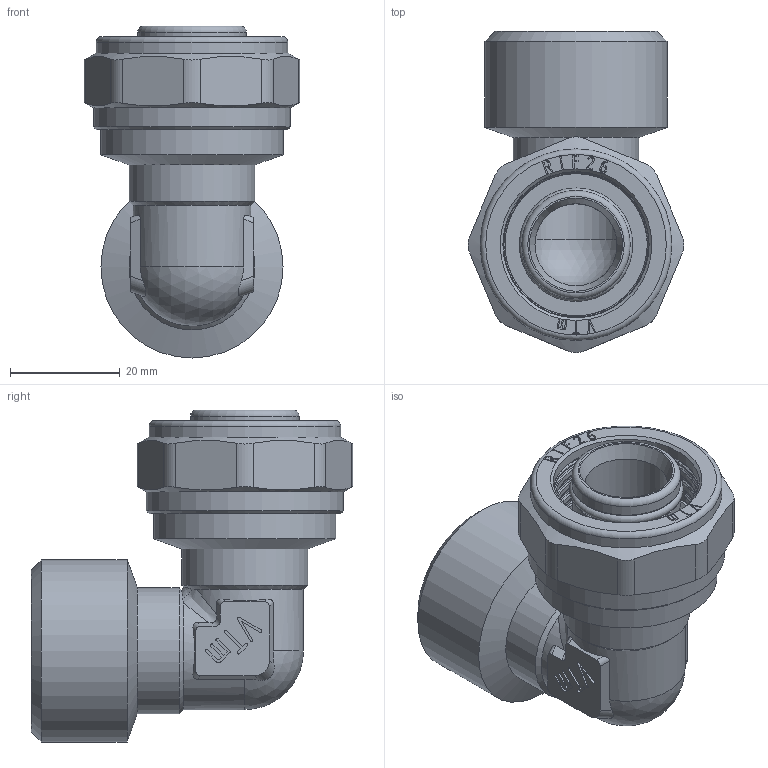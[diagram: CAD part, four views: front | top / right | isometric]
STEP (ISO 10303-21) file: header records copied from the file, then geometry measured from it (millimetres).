
FILE_DESCRIPTION(('STEP AP203'), '1');
FILE_NAME('VTm.353.N.002606', '', ('UNSPECIFIED'), ('UNSPECIFIED'), 'C3D Converter', 'C3D Toolkit', '');
FILE_SCHEMA(('CONFIG_CONTROL_DESIGN'));
Length unit declared in the file: millimetre
Products named in the file (1): ВР.302635.112.000 СБ
Bounding box: 39.39 x 58.69 x 60.62 mm (x, y, z)
Volume: 28800 mm3; surface area: 19678.6 mm2
Topology: 1 solids, 1 shells, 464 faces, 1275 edges, 839 vertices
Faces by surface type: extrusion 201, plane 156, cylinder 54, torus 29, cone 19, bspline 3, sphere 2
Full cylindrical faces by diameter (mm): 15 x1, 17 x1, 17.4 x4, 19.8 x5, 20 x1, 23 x2, 25 x1, 26.2 x1, 26.7 x1, 30.292 x1, 33.249 x2, 35 x1, 36 x1
Entity records: 17369 total; most frequent: CARTESIAN_POINT 6774, ORIENTED_EDGE 2444, DIRECTION 1507, EDGE_CURVE 1222, VERTEX_POINT 839, VECTOR 767, B_SPLINE_CURVE_WITH_KNOTS 712, LINE 566
